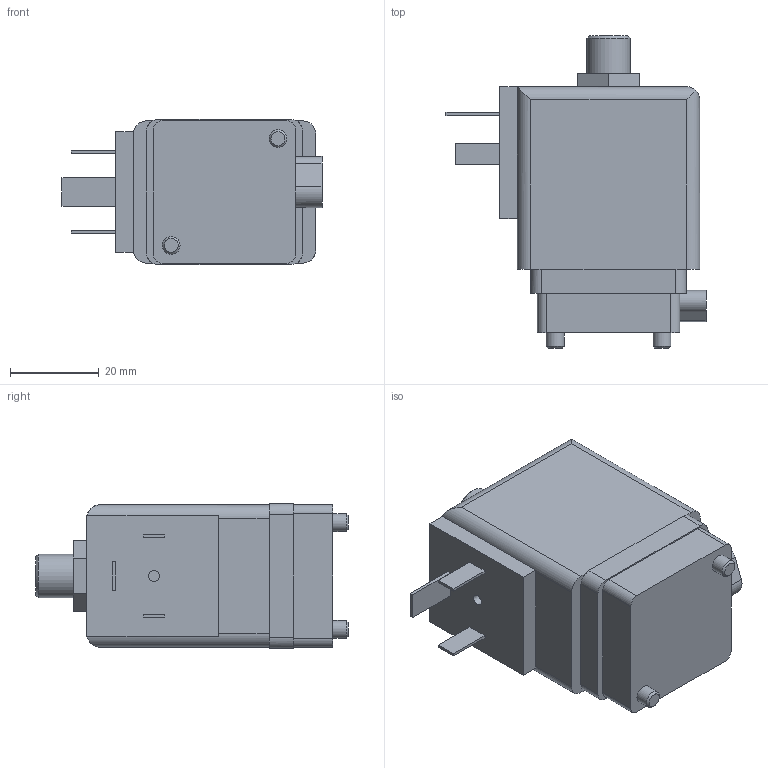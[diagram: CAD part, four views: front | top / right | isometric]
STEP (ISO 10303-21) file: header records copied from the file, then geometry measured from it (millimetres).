
FILE_DESCRIPTION(/* description */ ('STEP AP214'),/* implementation_level */ '2;1');
FILE_NAME(/* name */ '6014-126406-3_2-way_Solenoid_Valve_direct-acting',/* time_stamp */ '2024-08-12T12:49:38+02:00',/* author */ ('License CC BY-ND 4.0'),/* organization */ ('CADENAS'),/* preprocessor_version */ 'ST-DEVELOPER v19.3',/* originating_system */ 'PARTsolutions',/* authorisation */ ' ');
FILE_SCHEMA (('AUTOMOTIVE_DESIGN {1 0 10303 214 3 1 1}'));
Length unit declared in the file: millimetre
Products named in the file (1): 6014-126406-3/2-way Solenoid Valve direct-acting
Bounding box: 58.45 x 70.3 x 32.6 mm (x, y, z)
Volume: 73366.2 mm3; surface area: 11664.6 mm2
Topology: 1 solids, 1 shells, 78 faces, 196 edges, 128 vertices
Faces by surface type: plane 54, cylinder 21, cone 3
Full cylindrical faces by diameter (mm): 2.46 x1, 4 x2, 9.728 x1
Entity records: 2835 total; most frequent: DIRECTION 393, CARTESIAN_POINT 390, ORIENTED_EDGE 372, EDGE_CURVE 186, LINE 137, VECTOR 137, AXIS2_PLACEMENT_3D 128, VERTEX_POINT 125
